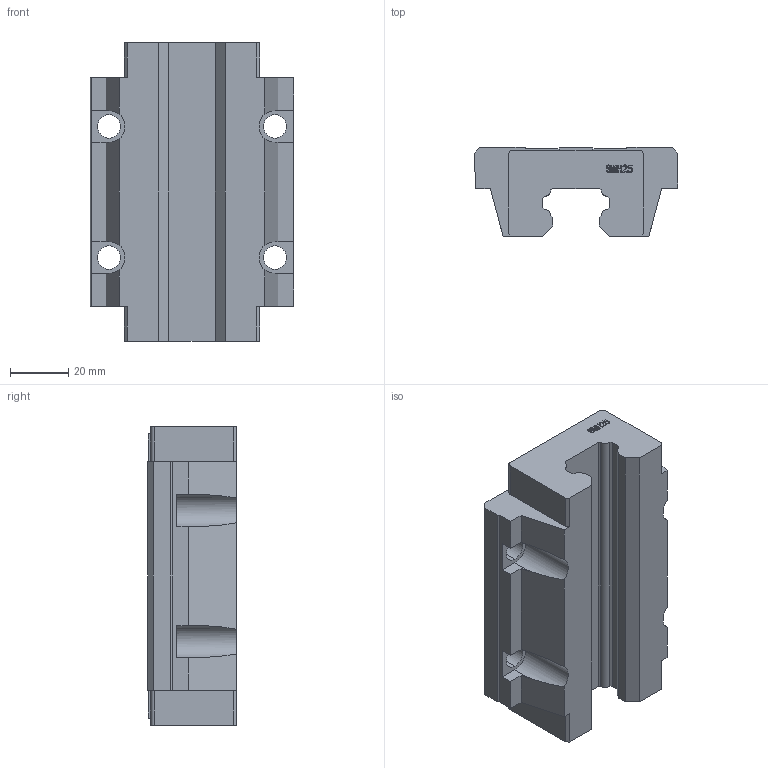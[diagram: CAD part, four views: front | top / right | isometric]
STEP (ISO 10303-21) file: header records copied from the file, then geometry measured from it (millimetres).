
FILE_DESCRIPTION (( 'STEP AP203' ), '1' );
FILE_NAME ('SMH25AL.stp', '2019-09-23T00:30:28', ( 'pgos' ), ( '' ), 'SwSTEP 2.0', 'SolidWorks 2014', '' );
FILE_SCHEMA (( 'CONFIG_CONTROL_DESIGN' ));
Length unit declared in the file: millimetre
Products named in the file (1): SMH25AL
Bounding box: 70 x 30.5 x 102.6 mm (x, y, z)
Volume: 140357 mm3; surface area: 26921.2 mm2
Topology: 1 solids, 1 shells, 164 faces, 471 edges, 314 vertices
Faces by surface type: plane 125, cylinder 20, bspline 19
Entity records: 6962 total; most frequent: CARTESIAN_POINT 2681, ORIENTED_EDGE 942, DIRECTION 757, EDGE_CURVE 471, VECTOR 385, LINE 385, VERTEX_POINT 314, AXIS2_PLACEMENT_3D 186
